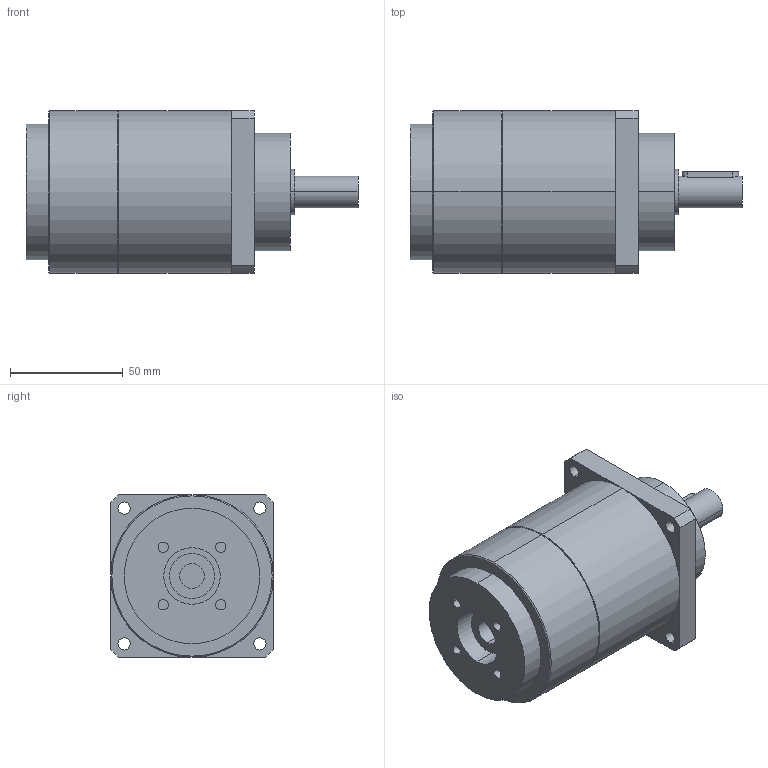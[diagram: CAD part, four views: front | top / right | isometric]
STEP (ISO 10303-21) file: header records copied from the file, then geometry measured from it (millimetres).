
FILE_DESCRIPTION(('CoCreate Modeling STEP Export'),'2;1');
FILE_NAME('GPT75_ig-9-12-16-20-25-28-35-40-50-70-100_14_B5T_11_P19.stp','2014-08-27T13:34:31',(''),(''),'CoCreate Modeling STEP processor for AP214 (Solid Model)','CoCreate Modeling 16.00C 25-Feb-2009 (C) Parametric Technology GmbH','');
FILE_SCHEMA(('AUTOMOTIVE_DESIGN { 1 0 10303 214 1 1 1 1 }'));
Length unit declared in the file: millimetre
Products named in the file (2): GPT75_ig-9-12-16-20-25-28-35-40-50-70-100_14_B5T_11_P19
Assembly tree (1 placements, depth 2):
  GPT75_ig-9-12-16-20-25-28-35-40-50-70-100_14_B5T_11_P19
    GPT75_ig-9-12-16-20-25-28-35-40-50-70-100_14_B5T_11_P19
Bounding box: 147 x 72 x 72 mm (x, y, z)
Volume: 440115.6 mm3; surface area: 40885 mm2
Topology: 1 solids, 1 shells, 72 faces, 170 edges, 113 vertices
Faces by surface type: cylinder 42, plane 26, cone 4
Entity records: 2201 total; most frequent: CARTESIAN_POINT 669, ORIENTED_EDGE 340, DIRECTION 268, EDGE_CURVE 170, VERTEX_POINT 113, AXIS2_PLACEMENT_3D 100, EDGE_LOOP 93, FACE_OUTER_BOUND 72
